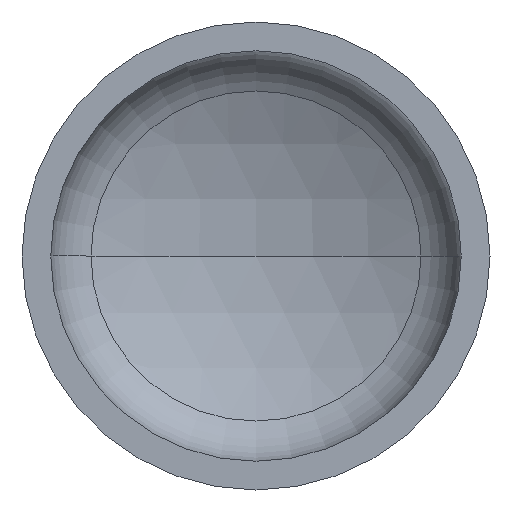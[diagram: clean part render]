
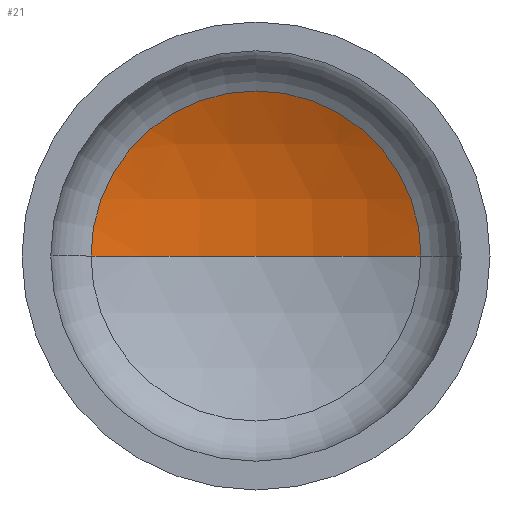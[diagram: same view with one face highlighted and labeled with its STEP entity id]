
A CAD part, front view. The second image highlights one B-rep face of the part: STEP entity #21.
In plain terms, the highlighted spherical face has radius 1120 mm.
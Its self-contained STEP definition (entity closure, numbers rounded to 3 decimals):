
#7 = CARTESIAN_POINT ( 'NONE',  ( 0., 407.704, 0. ) ) ;
#18 = AXIS2_PLACEMENT_3D ( 'NONE', #286, #396, #170 ) ;
#19 = AXIS2_PLACEMENT_3D ( 'NONE', #200, #202, #360 ) ;
#21 = ADVANCED_FACE ( 'NONE', ( #74 ), #148, .F. ) ;
#58 = ORIENTED_EDGE ( 'NONE', *, *, #335, .T. ) ;
#61 = DIRECTION ( 'NONE',  ( 1., 0., 0. ) ) ;
#63 = CIRCLE ( 'NONE', #18, 1120. ) ;
#65 = AXIS2_PLACEMENT_3D ( 'NONE', #343, #243, #247 ) ;
#74 = FACE_OUTER_BOUND ( 'NONE', #327, .T. ) ;
#134 = CIRCLE ( 'NONE', #235, 1120. ) ;
#148 = SPHERICAL_SURFACE ( 'NONE', #65, 1120. ) ;
#157 = VERTEX_POINT ( 'NONE', #226 ) ;
#170 = DIRECTION ( 'NONE',  ( -1., 0., 0. ) ) ;
#185 = VERTEX_POINT ( 'NONE', #7 ) ;
#193 = VERTEX_POINT ( 'NONE', #220 ) ;
#200 = CARTESIAN_POINT ( 'NONE',  ( 0., 292.976, 0. ) ) ;
#202 = DIRECTION ( 'NONE',  ( 0., -1., 0. ) ) ;
#220 = CARTESIAN_POINT ( 'NONE',  ( -493.79, 292.976, 0. ) ) ;
#226 = CARTESIAN_POINT ( 'NONE',  ( 493.79, 292.976, 0. ) ) ;
#231 = DIRECTION ( 'NONE',  ( 0., 0., 1. ) ) ;
#235 = AXIS2_PLACEMENT_3D ( 'NONE', #404, #231, #61 ) ;
#243 = DIRECTION ( 'NONE',  ( 0., 0., -1. ) ) ;
#247 = DIRECTION ( 'NONE',  ( -1., 0., 0. ) ) ;
#286 = CARTESIAN_POINT ( 'NONE',  ( 0., -712.296, 0. ) ) ;
#327 = EDGE_LOOP ( 'NONE', ( #377, #411, #58 ) ) ;
#335 = EDGE_CURVE ( 'NONE', #157, #193, #390, .T. ) ;
#336 = EDGE_CURVE ( 'NONE', #185, #157, #63, .T. ) ;
#343 = CARTESIAN_POINT ( 'NONE',  ( 0., -712.296, 0. ) ) ;
#360 = DIRECTION ( 'NONE',  ( 1., 0., 0. ) ) ;
#377 = ORIENTED_EDGE ( 'NONE', *, *, #388, .F. ) ;
#388 = EDGE_CURVE ( 'NONE', #185, #193, #134, .T. ) ;
#390 = CIRCLE ( 'NONE', #19, 493.79 ) ;
#396 = DIRECTION ( 'NONE',  ( 0., 0., -1. ) ) ;
#404 = CARTESIAN_POINT ( 'NONE',  ( 0., -712.296, 0. ) ) ;
#411 = ORIENTED_EDGE ( 'NONE', *, *, #336, .T. ) ;
